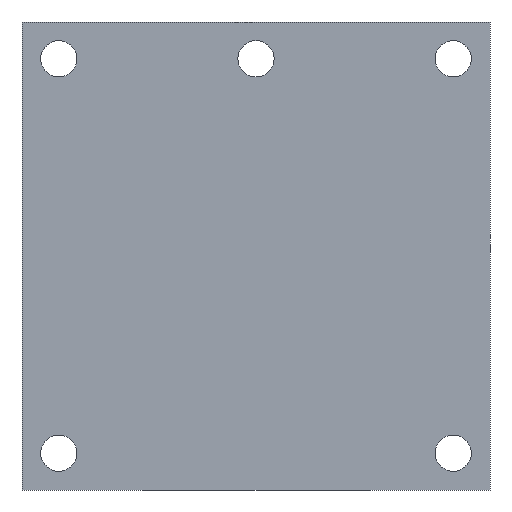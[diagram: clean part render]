
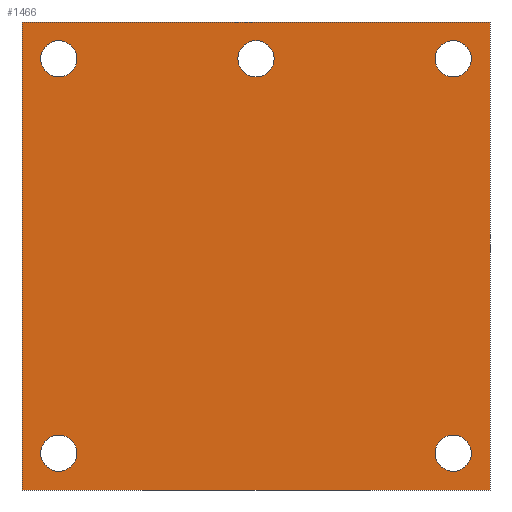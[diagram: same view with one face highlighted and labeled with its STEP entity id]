
A CAD part, front view. The second image highlights one B-rep face of the part: STEP entity #1466.
In plain terms, the highlighted planar face has unit normal (0, -1, 0).
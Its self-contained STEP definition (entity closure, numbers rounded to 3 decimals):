
#108 = FACE_BOUND ( 'NONE', #12138, .T. ) ;
#127 = DIRECTION ( 'NONE',  ( 1., 0., 0. ) ) ;
#218 = VERTEX_POINT ( 'NONE', #7200 ) ;
#236 = CARTESIAN_POINT ( 'NONE',  ( -22.605, -0.8, -22.605 ) ) ;
#277 = CARTESIAN_POINT ( 'NONE',  ( 19.05, -0.8, -17.3 ) ) ;
#308 = DIRECTION ( 'NONE',  ( 0., 0., -1. ) ) ;
#310 = VERTEX_POINT ( 'NONE', #14251 ) ;
#315 = CARTESIAN_POINT ( 'NONE',  ( 22.605, -0.8, 22.605 ) ) ;
#335 = DIRECTION ( 'NONE',  ( 0., 0., -1. ) ) ;
#379 = CARTESIAN_POINT ( 'NONE',  ( 19.05, -0.8, 19.05 ) ) ;
#457 = EDGE_CURVE ( 'NONE', #8170, #310, #14923, .T. ) ;
#902 = CIRCLE ( 'NONE', #9650, 1.75 ) ;
#1466 = ADVANCED_FACE ( 'NONE', ( #108, #9728, #14501, #2455, #13405, #3852 ), #7296, .T. ) ;
#1491 = DIRECTION ( 'NONE',  ( 0., 1., 0. ) ) ;
#1683 = DIRECTION ( 'NONE',  ( 0., 0., 1. ) ) ;
#1688 = DIRECTION ( 'NONE',  ( -1., 0., 0. ) ) ;
#1979 = CARTESIAN_POINT ( 'NONE',  ( 0., -0.8, 19.05 ) ) ;
#2237 = AXIS2_PLACEMENT_3D ( 'NONE', #1979, #14106, #10501 ) ;
#2400 = CARTESIAN_POINT ( 'NONE',  ( 22.605, -0.8, 22.605 ) ) ;
#2455 = FACE_BOUND ( 'NONE', #11711, .T. ) ;
#2506 = LINE ( 'NONE', #236, #11930 ) ;
#2625 = CARTESIAN_POINT ( 'NONE',  ( -19.05, -0.8, 20.8 ) ) ;
#2678 = DIRECTION ( 'NONE',  ( 0., -1., 0. ) ) ;
#3201 = EDGE_CURVE ( 'NONE', #15453, #15453, #12440, .T. ) ;
#3368 = VECTOR ( 'NONE', #127, 1000. ) ;
#3728 = CIRCLE ( 'NONE', #2237, 1.75 ) ;
#3748 = AXIS2_PLACEMENT_3D ( 'NONE', #3780, #2678, #335 ) ;
#3780 = CARTESIAN_POINT ( 'NONE',  ( 0., -0.8, 0. ) ) ;
#3786 = EDGE_CURVE ( 'NONE', #7239, #7239, #902, .T. ) ;
#3798 = ORIENTED_EDGE ( 'NONE', *, *, #3201, .T. ) ;
#3852 = FACE_BOUND ( 'NONE', #10552, .T. ) ;
#3894 = CIRCLE ( 'NONE', #12921, 1.75 ) ;
#4216 = EDGE_CURVE ( 'NONE', #4735, #4735, #3894, .T. ) ;
#4735 = VERTEX_POINT ( 'NONE', #2625 ) ;
#4890 = LINE ( 'NONE', #7235, #3368 ) ;
#5498 = CARTESIAN_POINT ( 'NONE',  ( -22.605, -0.8, -22.605 ) ) ;
#5541 = CARTESIAN_POINT ( 'NONE',  ( -22.605, -0.8, 22.605 ) ) ;
#5558 = ORIENTED_EDGE ( 'NONE', *, *, #4216, .T. ) ;
#5874 = DIRECTION ( 'NONE',  ( 0., 0., -1. ) ) ;
#6333 = EDGE_LOOP ( 'NONE', ( #13266 ) ) ;
#6398 = EDGE_CURVE ( 'NONE', #218, #8170, #2506, .T. ) ;
#6481 = DIRECTION ( 'NONE',  ( 0., 0., 1. ) ) ;
#7200 = CARTESIAN_POINT ( 'NONE',  ( 22.605, -0.8, -22.605 ) ) ;
#7235 = CARTESIAN_POINT ( 'NONE',  ( -22.605, -0.8, 22.605 ) ) ;
#7239 = VERTEX_POINT ( 'NONE', #13348 ) ;
#7296 = PLANE ( 'NONE',  #3748 ) ;
#7401 = EDGE_CURVE ( 'NONE', #11289, #11289, #3728, .T. ) ;
#7978 = ORIENTED_EDGE ( 'NONE', *, *, #7401, .T. ) ;
#8170 = VERTEX_POINT ( 'NONE', #5498 ) ;
#8348 = CARTESIAN_POINT ( 'NONE',  ( -19.05, -0.8, 19.05 ) ) ;
#8412 = AXIS2_PLACEMENT_3D ( 'NONE', #8917, #12011, #6481 ) ;
#8711 = CARTESIAN_POINT ( 'NONE',  ( 0., -0.8, 20.8 ) ) ;
#8917 = CARTESIAN_POINT ( 'NONE',  ( 19.05, -0.8, -19.05 ) ) ;
#9443 = EDGE_CURVE ( 'NONE', #12889, #218, #13111, .T. ) ;
#9650 = AXIS2_PLACEMENT_3D ( 'NONE', #10788, #14406, #5874 ) ;
#9728 = FACE_BOUND ( 'NONE', #6333, .T. ) ;
#10102 = EDGE_LOOP ( 'NONE', ( #11274, #13894, #10342, #11448 ) ) ;
#10342 = ORIENTED_EDGE ( 'NONE', *, *, #457, .F. ) ;
#10501 = DIRECTION ( 'NONE',  ( 0., 0., 1. ) ) ;
#10552 = EDGE_LOOP ( 'NONE', ( #7978 ) ) ;
#10696 = DIRECTION ( 'NONE',  ( 0., 0., -1. ) ) ;
#10787 = VECTOR ( 'NONE', #15245, 1000. ) ;
#10788 = CARTESIAN_POINT ( 'NONE',  ( -19.05, -0.8, -19.05 ) ) ;
#10898 = EDGE_LOOP ( 'NONE', ( #5558 ) ) ;
#11064 = CARTESIAN_POINT ( 'NONE',  ( 19.05, -0.8, 17.3 ) ) ;
#11274 = ORIENTED_EDGE ( 'NONE', *, *, #9443, .F. ) ;
#11289 = VERTEX_POINT ( 'NONE', #8711 ) ;
#11448 = ORIENTED_EDGE ( 'NONE', *, *, #6398, .F. ) ;
#11711 = EDGE_LOOP ( 'NONE', ( #3798 ) ) ;
#11930 = VECTOR ( 'NONE', #1688, 1000. ) ;
#11949 = DIRECTION ( 'NONE',  ( 0., 1., 0. ) ) ;
#12011 = DIRECTION ( 'NONE',  ( 0., 1., 0. ) ) ;
#12045 = AXIS2_PLACEMENT_3D ( 'NONE', #379, #1491, #308 ) ;
#12138 = EDGE_LOOP ( 'NONE', ( #12650 ) ) ;
#12233 = EDGE_CURVE ( 'NONE', #14889, #14889, #13038, .T. ) ;
#12440 = CIRCLE ( 'NONE', #8412, 1.75 ) ;
#12650 = ORIENTED_EDGE ( 'NONE', *, *, #12233, .T. ) ;
#12889 = VERTEX_POINT ( 'NONE', #315 ) ;
#12921 = AXIS2_PLACEMENT_3D ( 'NONE', #8348, #11949, #1683 ) ;
#13038 = CIRCLE ( 'NONE', #12045, 1.75 ) ;
#13111 = LINE ( 'NONE', #2400, #14313 ) ;
#13266 = ORIENTED_EDGE ( 'NONE', *, *, #3786, .T. ) ;
#13348 = CARTESIAN_POINT ( 'NONE',  ( -19.05, -0.8, -20.8 ) ) ;
#13405 = FACE_BOUND ( 'NONE', #10898, .T. ) ;
#13894 = ORIENTED_EDGE ( 'NONE', *, *, #14625, .F. ) ;
#14106 = DIRECTION ( 'NONE',  ( 0., 1., 0. ) ) ;
#14251 = CARTESIAN_POINT ( 'NONE',  ( -22.605, -0.8, 22.605 ) ) ;
#14313 = VECTOR ( 'NONE', #10696, 1000. ) ;
#14406 = DIRECTION ( 'NONE',  ( 0., 1., 0. ) ) ;
#14501 = FACE_OUTER_BOUND ( 'NONE', #10102, .T. ) ;
#14625 = EDGE_CURVE ( 'NONE', #310, #12889, #4890, .T. ) ;
#14889 = VERTEX_POINT ( 'NONE', #11064 ) ;
#14923 = LINE ( 'NONE', #5541, #10787 ) ;
#15245 = DIRECTION ( 'NONE',  ( 0., 0., 1. ) ) ;
#15453 = VERTEX_POINT ( 'NONE', #277 ) ;
